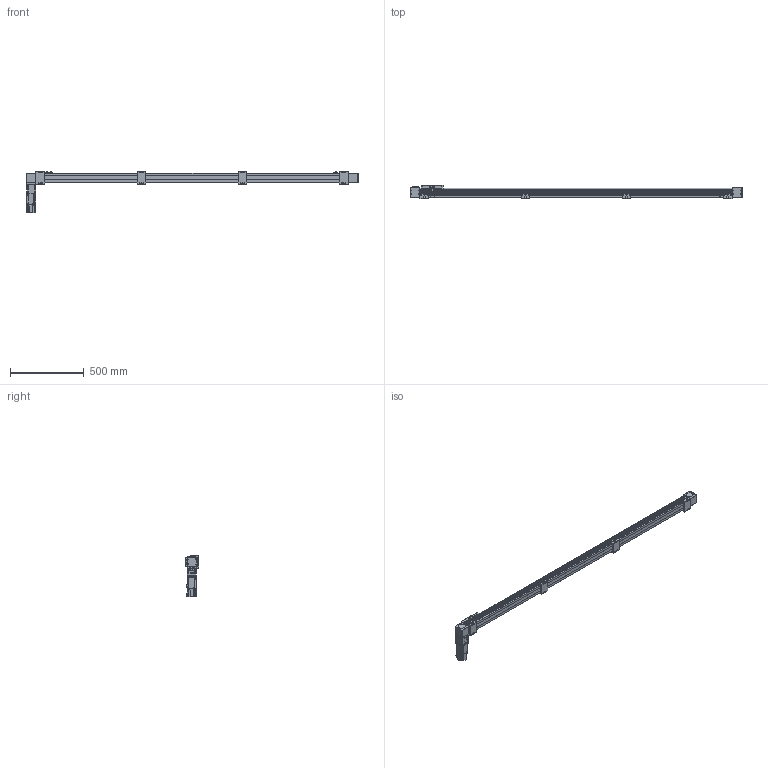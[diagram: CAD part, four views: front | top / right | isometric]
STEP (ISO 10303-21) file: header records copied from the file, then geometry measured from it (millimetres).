
FILE_DESCRIPTION(/* description */ ('STEP AP203'),/* implementation_level */ '2;1');
FILE_NAME(/* name */ 'SK60-P13-S1950-BR-T40-C1-N(0)',/* time_stamp */ '2023-04-06T04:00:32+02:00',/* author */ ('License CC BY-ND 4.0'),/* organization */ ('CADENAS'),/* preprocessor_version */ 'ST-DEVELOPER v19.3',/* originating_system */ 'PARTsolutions',/* authorisation */ ' ');
FILE_SCHEMA (('CONFIG_CONTROL_DESIGN'));
Length unit declared in the file: millimetre
Products named in the file (11): SK60-P13-S1950-BR-T40-C1-N(0); PSC140-sensor; SK60-S450_seat; SK60-S450-BL-C1_slider; SK60_body3; SK60_body6; SK60-BL_body2; T40-p1; SK60_body5; SK60_body4; SK60-S1950-BR-C1_body
Assembly tree (19 placements, depth 2):
  SK60-P13-S1950-BR-T40-C1-N(0)
    PSC140-sensor  x3
    SK60-S450_seat  x4
    SK60-S450-BL-C1_slider
    SK60_body3  x3
    SK60_body6  x2
    SK60-BL_body2  x2
    T40-p1
    SK60_body5
    SK60_body4
    SK60-S1950-BR-C1_body
Bounding box: 2250 x 90 x 279.1 mm (x, y, z)
Volume: 8220291 mm3; surface area: 1022715.3 mm2
Topology: 19 solids, 23 shells, 922 faces, 2305 edges, 1522 vertices
Faces by surface type: plane 592, cylinder 298, cone 30, torus 2
Full cylindrical faces by diameter (mm): 2.8 x3, 3.3 x4, 4.2 x8, 4.5 x26, 4.6 x3, 4.917 x24, 5 x2, 5.478 x4, 5.5 x27, 6.5 x8, 8 x4, 8.5 x4, 9.988 x4, 10 x16, 13.556 x1, 14 x1, 14.586 x1, 19.692 x1, 38.432 x2, 43 x1, 44 x3, 47 x2, 50 x2
Entity records: 19387 total; most frequent: DIRECTION 3296, CARTESIAN_POINT 3291, ORIENTED_EDGE 3050, EDGE_CURVE 1525, AXIS2_PLACEMENT_3D 1102, LINE 1092, VECTOR 1092, VERTEX_POINT 1077
